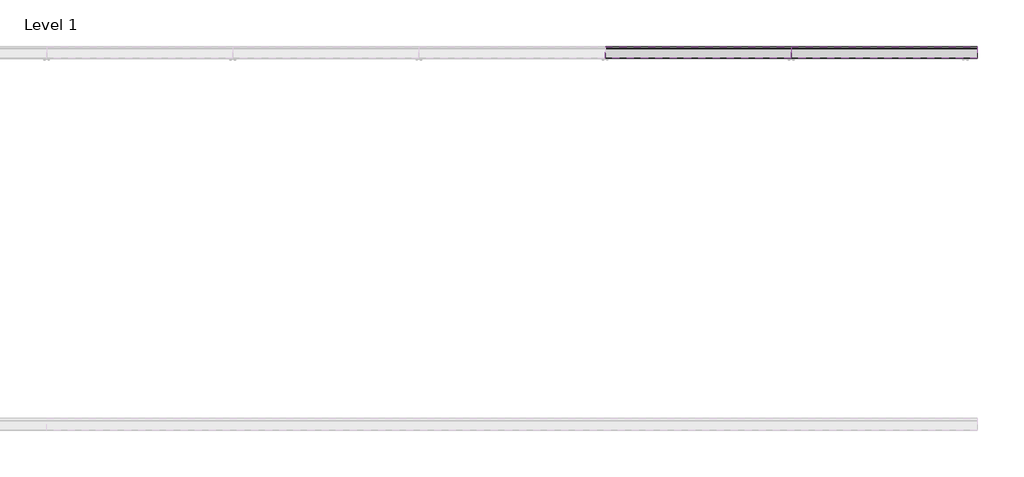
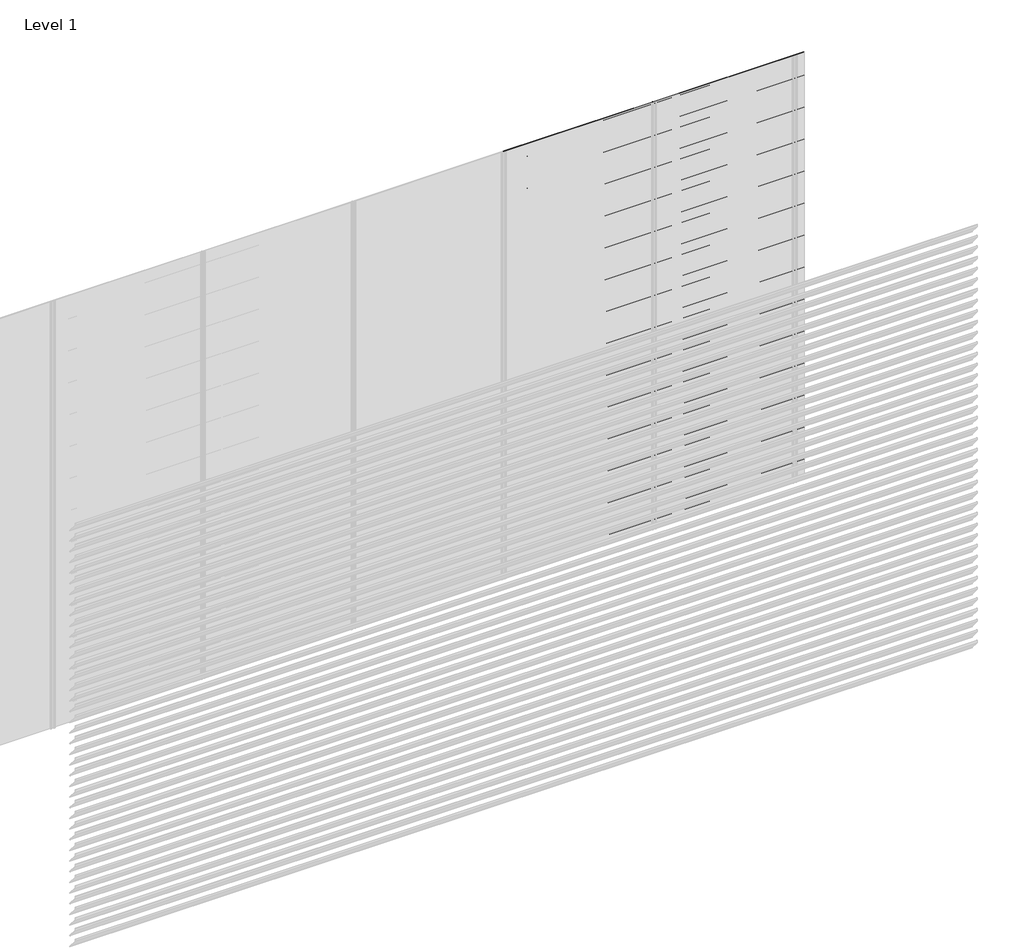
# One storey, part 35 of 35: 90 proxies.
"""IFC4 building model written with IfcOpenShell, lengths in millimetres."""

from ifc_helpers import new_model, si_unit, frame, origin, place, context, project, spatial, polyline, outline, extrude, element, save

model = new_model("IFC4")

# Units and contexts
model_context = context("Model", 3, world=origin())
ifc_project = project(units=[si_unit("LENGTHUNIT", "METRE", prefix="MILLI")], contexts=[model_context])

# Site, building, storey
site = spatial("IfcSite", under=ifc_project)
building = spatial("IfcBuilding", under=site)
storey = spatial("IfcBuildingStorey", under=building, Name="Level 1", Elevation=0.0)

# Proxies
placement = place(None, origin())
element("IfcBuildingElementProxy", 1, Name="Wall Sweeps", at=placement, inside=storey, context=model_context, shape_type="SweptSolid", body=[
    extrude(outline(polyline([(3.5, 750.0), (3.5, 735.5463701), (65.5, 663.9330051), (65.5, 660.4), (64.0, 660.4), (64.0, 663.3738975), (2.0, 734.9872626), (2.0, 750.0), (3.5, 750.0)])), frame((3000.0, 0.0, 0.0), z_axis=(1.0, 0.0, 0.0), x_axis=(0.0, 1.0, 0.0)), (0.0, 0.0, 1.0), 1000.0),
])
element("IfcBuildingElementProxy", 2, Name="Wall Sweeps", at=placement, inside=storey, context=model_context, shape_type="SweptSolid", body=[
    extrude(outline(polyline([(3.5, 675.0), (3.5, 660.5463701), (65.5, 588.9330051), (65.5, 585.4), (64.0, 585.4), (64.0, 588.3738975), (2.0, 659.9872626), (2.0, 675.0), (3.5, 675.0)])), frame((3000.0, 0.0, 0.0), z_axis=(1.0, 0.0, 0.0), x_axis=(0.0, 1.0, 0.0)), (0.0, 0.0, 1.0), 1000.0),
])
element("IfcBuildingElementProxy", 3, Name="Wall Sweeps", at=placement, inside=storey, context=model_context, shape_type="SweptSolid", body=[
    extrude(outline(polyline([(3.5, 600.0), (3.5, 585.5463701), (65.5, 513.9330051), (65.5, 510.4), (64.0, 510.4), (64.0, 513.3738975), (2.0, 584.9872626), (2.0, 600.0), (3.5, 600.0)])), frame((3000.0, 0.0, 0.0), z_axis=(1.0, 0.0, 0.0), x_axis=(0.0, 1.0, 0.0)), (0.0, 0.0, 1.0), 1000.0),
])
element("IfcBuildingElementProxy", 4, Name="Wall Sweeps", at=placement, inside=storey, context=model_context, shape_type="SweptSolid", body=[
    extrude(outline(polyline([(3.5, 525.0), (3.5, 510.5463701), (65.5, 438.9330051), (65.5, 435.4), (64.0, 435.4), (64.0, 438.3738975), (2.0, 509.9872626), (2.0, 525.0), (3.5, 525.0)])), frame((3000.0, 0.0, 0.0), z_axis=(1.0, 0.0, 0.0), x_axis=(0.0, 1.0, 0.0)), (0.0, 0.0, 1.0), 1000.0),
])
element("IfcBuildingElementProxy", 5, Name="Wall Sweeps", at=placement, inside=storey, context=model_context, shape_type="SweptSolid", body=[
    extrude(outline(polyline([(3.5, 450.0), (3.5, 435.5463701), (65.5, 363.9330051), (65.5, 360.4), (64.0, 360.4), (64.0, 363.3738975), (2.0, 434.9872626), (2.0, 450.0), (3.5, 450.0)])), frame((3000.0, 0.0, 0.0), z_axis=(1.0, 0.0, 0.0), x_axis=(0.0, 1.0, 0.0)), (0.0, 0.0, 1.0), 1000.0),
])
element("IfcBuildingElementProxy", 6, Name="Wall Sweeps", at=placement, inside=storey, context=model_context, shape_type="SweptSolid", body=[
    extrude(outline(polyline([(3.5, 375.0), (3.5, 360.5463701), (65.5, 288.9330051), (65.5, 285.4), (64.0, 285.4), (64.0, 288.3738975), (2.0, 359.9872626), (2.0, 375.0), (3.5, 375.0)])), frame((3000.0, 0.0, 0.0), z_axis=(1.0, 0.0, 0.0), x_axis=(0.0, 1.0, 0.0)), (0.0, 0.0, 1.0), 1000.0),
])
element("IfcBuildingElementProxy", 7, Name="Wall Sweeps", at=placement, inside=storey, context=model_context, shape_type="SweptSolid", body=[
    extrude(outline(polyline([(3.5, 300.0), (3.5, 285.5463701), (65.5, 213.9330051), (65.5, 210.4), (64.0, 210.4), (64.0, 213.3738975), (2.0, 284.9872626), (2.0, 300.0), (3.5, 300.0)])), frame((3000.0, 0.0, 0.0), z_axis=(1.0, 0.0, 0.0), x_axis=(0.0, 1.0, 0.0)), (0.0, 0.0, 1.0), 1000.0),
])
element("IfcBuildingElementProxy", 8, Name="Wall Sweeps", at=placement, inside=storey, context=model_context, shape_type="SweptSolid", body=[
    extrude(outline(polyline([(3.5, 225.0), (3.5, 210.5463701), (65.5, 138.9330051), (65.5, 135.4), (64.0, 135.4), (64.0, 138.3738975), (2.0, 209.9872626), (2.0, 225.0), (3.5, 225.0)])), frame((3000.0, 0.0, 0.0), z_axis=(1.0, 0.0, 0.0), x_axis=(0.0, 1.0, 0.0)), (0.0, 0.0, 1.0), 1000.0),
])
element("IfcBuildingElementProxy", 9, Name="Wall Sweeps", at=placement, inside=storey, context=model_context, shape_type="SweptSolid", body=[
    extrude(outline(polyline([(3.5, 150.0), (3.5, 135.5463701), (65.5, 63.9330051), (65.5, 60.4), (64.0, 60.4), (64.0, 63.3738975), (2.0, 134.9872626), (2.0, 150.0), (3.5, 150.0)])), frame((3000.0, 0.0, 0.0), z_axis=(1.0, 0.0, 0.0), x_axis=(0.0, 1.0, 0.0)), (0.0, 0.0, 1.0), 1000.0),
])
element("IfcBuildingElementProxy", 10, Name="Wall Sweeps", at=placement, inside=storey, context=model_context, shape_type="SweptSolid", body=[
    extrude(outline(polyline([(3.5, 75.0), (3.5, 60.5463701), (65.5, -11.0669949), (65.5, -14.6), (64.0, -14.6), (64.0, -11.6261025), (2.0, 59.9872626), (2.0, 75.0), (3.5, 75.0)])), frame((3000.0, 0.0, 0.0), z_axis=(1.0, 0.0, 0.0), x_axis=(0.0, 1.0, 0.0)), (0.0, 0.0, 1.0), 1000.0),
])
element("IfcBuildingElementProxy", 11, Name="Wall Sweeps", at=placement, inside=storey, context=model_context, shape_type="SweptSolid", body=[
    extrude(outline(polyline([(3.5, 3000.0), (3.5, 2985.5463701), (65.5, 2913.9330051), (65.5, 2910.4), (64.0, 2910.4), (64.0, 2913.3738975), (2.0, 2984.9872626), (2.0, 3000.0), (3.5, 3000.0)])), frame((4000.0, 0.0, 0.0), z_axis=(1.0, 0.0, 0.0), x_axis=(0.0, 1.0, 0.0)), (0.0, 0.0, 1.0), 1000.0),
])
element("IfcBuildingElementProxy", 12, Name="Wall Sweeps", at=placement, inside=storey, context=model_context, shape_type="SweptSolid", body=[
    extrude(outline(polyline([(3.5, 2925.0), (3.5, 2910.5463701), (65.5, 2838.9330051), (65.5, 2835.4), (64.0, 2835.4), (64.0, 2838.3738975), (2.0, 2909.9872626), (2.0, 2925.0), (3.5, 2925.0)])), frame((4000.0, 0.0, 0.0), z_axis=(1.0, 0.0, 0.0), x_axis=(0.0, 1.0, 0.0)), (0.0, 0.0, 1.0), 1000.0),
])
element("IfcBuildingElementProxy", 13, Name="Wall Sweeps", at=placement, inside=storey, context=model_context, shape_type="SweptSolid", body=[
    extrude(outline(polyline([(3.5, 2850.0), (3.5, 2835.5463701), (65.5, 2763.9330051), (65.5, 2760.4), (64.0, 2760.4), (64.0, 2763.3738975), (2.0, 2834.9872626), (2.0, 2850.0), (3.5, 2850.0)])), frame((4000.0, 0.0, 0.0), z_axis=(1.0, 0.0, 0.0), x_axis=(0.0, 1.0, 0.0)), (0.0, 0.0, 1.0), 1000.0),
])
element("IfcBuildingElementProxy", 14, Name="Wall Sweeps", at=placement, inside=storey, context=model_context, shape_type="SweptSolid", body=[
    extrude(outline(polyline([(3.5, 2775.0), (3.5, 2760.5463701), (65.5, 2688.9330051), (65.5, 2685.4), (64.0, 2685.4), (64.0, 2688.3738975), (2.0, 2759.9872626), (2.0, 2775.0), (3.5, 2775.0)])), frame((4000.0, 0.0, 0.0), z_axis=(1.0, 0.0, 0.0), x_axis=(0.0, 1.0, 0.0)), (0.0, 0.0, 1.0), 1000.0),
])
element("IfcBuildingElementProxy", 15, Name="Wall Sweeps", at=placement, inside=storey, context=model_context, shape_type="SweptSolid", body=[
    extrude(outline(polyline([(3.5, 2700.0), (3.5, 2685.5463701), (65.5, 2613.9330051), (65.5, 2610.4), (64.0, 2610.4), (64.0, 2613.3738975), (2.0, 2684.9872626), (2.0, 2700.0), (3.5, 2700.0)])), frame((4000.0, 0.0, 0.0), z_axis=(1.0, 0.0, 0.0), x_axis=(0.0, 1.0, 0.0)), (0.0, 0.0, 1.0), 1000.0),
])
element("IfcBuildingElementProxy", 16, Name="Wall Sweeps", at=placement, inside=storey, context=model_context, shape_type="SweptSolid", body=[
    extrude(outline(polyline([(3.5, 2625.0), (3.5, 2610.5463701), (65.5, 2538.9330051), (65.5, 2535.4), (64.0, 2535.4), (64.0, 2538.3738975), (2.0, 2609.9872626), (2.0, 2625.0), (3.5, 2625.0)])), frame((4000.0, 0.0, 0.0), z_axis=(1.0, 0.0, 0.0), x_axis=(0.0, 1.0, 0.0)), (0.0, 0.0, 1.0), 1000.0),
])
element("IfcBuildingElementProxy", 17, Name="Wall Sweeps", at=placement, inside=storey, context=model_context, shape_type="SweptSolid", body=[
    extrude(outline(polyline([(3.5, 2550.0), (3.5, 2535.5463701), (65.5, 2463.9330051), (65.5, 2460.4), (64.0, 2460.4), (64.0, 2463.3738975), (2.0, 2534.9872626), (2.0, 2550.0), (3.5, 2550.0)])), frame((4000.0, 0.0, 0.0), z_axis=(1.0, 0.0, 0.0), x_axis=(0.0, 1.0, 0.0)), (0.0, 0.0, 1.0), 1000.0),
])
element("IfcBuildingElementProxy", 18, Name="Wall Sweeps", at=placement, inside=storey, context=model_context, shape_type="SweptSolid", body=[
    extrude(outline(polyline([(3.5, 2475.0), (3.5, 2460.5463701), (65.5, 2388.9330051), (65.5, 2385.4), (64.0, 2385.4), (64.0, 2388.3738975), (2.0, 2459.9872626), (2.0, 2475.0), (3.5, 2475.0)])), frame((4000.0, 0.0, 0.0), z_axis=(1.0, 0.0, 0.0), x_axis=(0.0, 1.0, 0.0)), (0.0, 0.0, 1.0), 1000.0),
])
element("IfcBuildingElementProxy", 19, Name="Wall Sweeps", at=placement, inside=storey, context=model_context, shape_type="SweptSolid", body=[
    extrude(outline(polyline([(3.5, 2400.0), (3.5, 2385.5463701), (65.5, 2313.9330051), (65.5, 2310.4), (64.0, 2310.4), (64.0, 2313.3738975), (2.0, 2384.9872626), (2.0, 2400.0), (3.5, 2400.0)])), frame((4000.0, 0.0, 0.0), z_axis=(1.0, 0.0, 0.0), x_axis=(0.0, 1.0, 0.0)), (0.0, 0.0, 1.0), 1000.0),
])
element("IfcBuildingElementProxy", 20, Name="Wall Sweeps", at=placement, inside=storey, context=model_context, shape_type="SweptSolid", body=[
    extrude(outline(polyline([(3.5, 2325.0), (3.5, 2310.5463701), (65.5, 2238.9330051), (65.5, 2235.4), (64.0, 2235.4), (64.0, 2238.3738975), (2.0, 2309.9872626), (2.0, 2325.0), (3.5, 2325.0)])), frame((4000.0, 0.0, 0.0), z_axis=(1.0, 0.0, 0.0), x_axis=(0.0, 1.0, 0.0)), (0.0, 0.0, 1.0), 1000.0),
])
element("IfcBuildingElementProxy", 21, Name="Wall Sweeps", at=placement, inside=storey, context=model_context, shape_type="SweptSolid", body=[
    extrude(outline(polyline([(3.5, 2250.0), (3.5, 2235.5463701), (65.5, 2163.9330051), (65.5, 2160.4), (64.0, 2160.4), (64.0, 2163.3738975), (2.0, 2234.9872626), (2.0, 2250.0), (3.5, 2250.0)])), frame((4000.0, 0.0, 0.0), z_axis=(1.0, 0.0, 0.0), x_axis=(0.0, 1.0, 0.0)), (0.0, 0.0, 1.0), 1000.0),
])
element("IfcBuildingElementProxy", 22, Name="Wall Sweeps", at=placement, inside=storey, context=model_context, shape_type="SweptSolid", body=[
    extrude(outline(polyline([(3.5, 2175.0), (3.5, 2160.5463701), (65.5, 2088.9330051), (65.5, 2085.4), (64.0, 2085.4), (64.0, 2088.3738975), (2.0, 2159.9872626), (2.0, 2175.0), (3.5, 2175.0)])), frame((4000.0, 0.0, 0.0), z_axis=(1.0, 0.0, 0.0), x_axis=(0.0, 1.0, 0.0)), (0.0, 0.0, 1.0), 1000.0),
])
element("IfcBuildingElementProxy", 23, Name="Wall Sweeps", at=placement, inside=storey, context=model_context, shape_type="SweptSolid", body=[
    extrude(outline(polyline([(3.5, 2100.0), (3.5, 2085.5463701), (65.5, 2013.9330051), (65.5, 2010.4), (64.0, 2010.4), (64.0, 2013.3738975), (2.0, 2084.9872626), (2.0, 2100.0), (3.5, 2100.0)])), frame((4000.0, 0.0, 0.0), z_axis=(1.0, 0.0, 0.0), x_axis=(0.0, 1.0, 0.0)), (0.0, 0.0, 1.0), 1000.0),
])
element("IfcBuildingElementProxy", 24, Name="Wall Sweeps", at=placement, inside=storey, context=model_context, shape_type="SweptSolid", body=[
    extrude(outline(polyline([(3.5, 2025.0), (3.5, 2010.5463701), (65.5, 1938.9330051), (65.5, 1935.4), (64.0, 1935.4), (64.0, 1938.3738975), (2.0, 2009.9872626), (2.0, 2025.0), (3.5, 2025.0)])), frame((4000.0, 0.0, 0.0), z_axis=(1.0, 0.0, 0.0), x_axis=(0.0, 1.0, 0.0)), (0.0, 0.0, 1.0), 1000.0),
])
element("IfcBuildingElementProxy", 25, Name="Wall Sweeps", at=placement, inside=storey, context=model_context, shape_type="SweptSolid", body=[
    extrude(outline(polyline([(3.5, 1950.0), (3.5, 1935.5463701), (65.5, 1863.9330051), (65.5, 1860.4), (64.0, 1860.4), (64.0, 1863.3738975), (2.0, 1934.9872626), (2.0, 1950.0), (3.5, 1950.0)])), frame((4000.0, 0.0, 0.0), z_axis=(1.0, 0.0, 0.0), x_axis=(0.0, 1.0, 0.0)), (0.0, 0.0, 1.0), 1000.0),
])
element("IfcBuildingElementProxy", 26, Name="Wall Sweeps", at=placement, inside=storey, context=model_context, shape_type="SweptSolid", body=[
    extrude(outline(polyline([(3.5, 1875.0), (3.5, 1860.5463701), (65.5, 1788.9330051), (65.5, 1785.4), (64.0, 1785.4), (64.0, 1788.3738975), (2.0, 1859.9872626), (2.0, 1875.0), (3.5, 1875.0)])), frame((4000.0, 0.0, 0.0), z_axis=(1.0, 0.0, 0.0), x_axis=(0.0, 1.0, 0.0)), (0.0, 0.0, 1.0), 1000.0),
])
element("IfcBuildingElementProxy", 27, Name="Wall Sweeps", at=placement, inside=storey, context=model_context, shape_type="SweptSolid", body=[
    extrude(outline(polyline([(3.5, 1800.0), (3.5, 1785.5463701), (65.5, 1713.9330051), (65.5, 1710.4), (64.0, 1710.4), (64.0, 1713.3738975), (2.0, 1784.9872626), (2.0, 1800.0), (3.5, 1800.0)])), frame((4000.0, 0.0, 0.0), z_axis=(1.0, 0.0, 0.0), x_axis=(0.0, 1.0, 0.0)), (0.0, 0.0, 1.0), 1000.0),
])
element("IfcBuildingElementProxy", 28, Name="Wall Sweeps", at=placement, inside=storey, context=model_context, shape_type="SweptSolid", body=[
    extrude(outline(polyline([(3.5, 1725.0), (3.5, 1710.5463701), (65.5, 1638.9330051), (65.5, 1635.4), (64.0, 1635.4), (64.0, 1638.3738975), (2.0, 1709.9872626), (2.0, 1725.0), (3.5, 1725.0)])), frame((4000.0, 0.0, 0.0), z_axis=(1.0, 0.0, 0.0), x_axis=(0.0, 1.0, 0.0)), (0.0, 0.0, 1.0), 1000.0),
])
element("IfcBuildingElementProxy", 29, Name="Wall Sweeps", at=placement, inside=storey, context=model_context, shape_type="SweptSolid", body=[
    extrude(outline(polyline([(3.5, 1650.0), (3.5, 1635.5463701), (65.5, 1563.9330051), (65.5, 1560.4), (64.0, 1560.4), (64.0, 1563.3738975), (2.0, 1634.9872626), (2.0, 1650.0), (3.5, 1650.0)])), frame((4000.0, 0.0, 0.0), z_axis=(1.0, 0.0, 0.0), x_axis=(0.0, 1.0, 0.0)), (0.0, 0.0, 1.0), 1000.0),
])
element("IfcBuildingElementProxy", 30, Name="Wall Sweeps", at=placement, inside=storey, context=model_context, shape_type="SweptSolid", body=[
    extrude(outline(polyline([(3.5, 1575.0), (3.5, 1560.5463701), (65.5, 1488.9330051), (65.5, 1485.4), (64.0, 1485.4), (64.0, 1488.3738975), (2.0, 1559.9872626), (2.0, 1575.0), (3.5, 1575.0)])), frame((4000.0, 0.0, 0.0), z_axis=(1.0, 0.0, 0.0), x_axis=(0.0, 1.0, 0.0)), (0.0, 0.0, 1.0), 1000.0),
])
element("IfcBuildingElementProxy", 31, Name="Wall Sweeps", at=placement, inside=storey, context=model_context, shape_type="SweptSolid", body=[
    extrude(outline(polyline([(3.5, 1500.0), (3.5, 1485.5463701), (65.5, 1413.9330051), (65.5, 1410.4), (64.0, 1410.4), (64.0, 1413.3738975), (2.0, 1484.9872626), (2.0, 1500.0), (3.5, 1500.0)])), frame((4000.0, 0.0, 0.0), z_axis=(1.0, 0.0, 0.0), x_axis=(0.0, 1.0, 0.0)), (0.0, 0.0, 1.0), 1000.0),
])
element("IfcBuildingElementProxy", 32, Name="Wall Sweeps", at=placement, inside=storey, context=model_context, shape_type="SweptSolid", body=[
    extrude(outline(polyline([(3.5, 1425.0), (3.5, 1410.5463701), (65.5, 1338.9330051), (65.5, 1335.4), (64.0, 1335.4), (64.0, 1338.3738975), (2.0, 1409.9872626), (2.0, 1425.0), (3.5, 1425.0)])), frame((4000.0, 0.0, 0.0), z_axis=(1.0, 0.0, 0.0), x_axis=(0.0, 1.0, 0.0)), (0.0, 0.0, 1.0), 1000.0),
])
element("IfcBuildingElementProxy", 33, Name="Wall Sweeps", at=placement, inside=storey, context=model_context, shape_type="SweptSolid", body=[
    extrude(outline(polyline([(3.5, 1350.0), (3.5, 1335.5463701), (65.5, 1263.9330051), (65.5, 1260.4), (64.0, 1260.4), (64.0, 1263.3738975), (2.0, 1334.9872626), (2.0, 1350.0), (3.5, 1350.0)])), frame((4000.0, 0.0, 0.0), z_axis=(1.0, 0.0, 0.0), x_axis=(0.0, 1.0, 0.0)), (0.0, 0.0, 1.0), 1000.0),
])
element("IfcBuildingElementProxy", 34, Name="Wall Sweeps", at=placement, inside=storey, context=model_context, shape_type="SweptSolid", body=[
    extrude(outline(polyline([(3.5, 1275.0), (3.5, 1260.5463701), (65.5, 1188.9330051), (65.5, 1185.4), (64.0, 1185.4), (64.0, 1188.3738975), (2.0, 1259.9872626), (2.0, 1275.0), (3.5, 1275.0)])), frame((4000.0, 0.0, 0.0), z_axis=(1.0, 0.0, 0.0), x_axis=(0.0, 1.0, 0.0)), (0.0, 0.0, 1.0), 1000.0),
])
element("IfcBuildingElementProxy", 35, Name="Wall Sweeps", at=placement, inside=storey, context=model_context, shape_type="SweptSolid", body=[
    extrude(outline(polyline([(3.5, 1200.0), (3.5, 1185.5463701), (65.5, 1113.9330051), (65.5, 1110.4), (64.0, 1110.4), (64.0, 1113.3738975), (2.0, 1184.9872626), (2.0, 1200.0), (3.5, 1200.0)])), frame((4000.0, 0.0, 0.0), z_axis=(1.0, 0.0, 0.0), x_axis=(0.0, 1.0, 0.0)), (0.0, 0.0, 1.0), 1000.0),
])
element("IfcBuildingElementProxy", 36, Name="Wall Sweeps", at=placement, inside=storey, context=model_context, shape_type="SweptSolid", body=[
    extrude(outline(polyline([(3.5, 1125.0), (3.5, 1110.5463701), (65.5, 1038.9330051), (65.5, 1035.4), (64.0, 1035.4), (64.0, 1038.3738975), (2.0, 1109.9872626), (2.0, 1125.0), (3.5, 1125.0)])), frame((4000.0, 0.0, 0.0), z_axis=(1.0, 0.0, 0.0), x_axis=(0.0, 1.0, 0.0)), (0.0, 0.0, 1.0), 1000.0),
])
element("IfcBuildingElementProxy", 37, Name="Wall Sweeps", at=placement, inside=storey, context=model_context, shape_type="SweptSolid", body=[
    extrude(outline(polyline([(3.5, 1050.0), (3.5, 1035.5463701), (65.5, 963.9330051), (65.5, 960.4), (64.0, 960.4), (64.0, 963.3738975), (2.0, 1034.9872626), (2.0, 1050.0), (3.5, 1050.0)])), frame((4000.0, 0.0, 0.0), z_axis=(1.0, 0.0, 0.0), x_axis=(0.0, 1.0, 0.0)), (0.0, 0.0, 1.0), 1000.0),
])
element("IfcBuildingElementProxy", 38, Name="Wall Sweeps", at=placement, inside=storey, context=model_context, shape_type="SweptSolid", body=[
    extrude(outline(polyline([(3.5, 975.0), (3.5, 960.5463701), (65.5, 888.9330051), (65.5, 885.4), (64.0, 885.4), (64.0, 888.3738975), (2.0, 959.9872626), (2.0, 975.0), (3.5, 975.0)])), frame((4000.0, 0.0, 0.0), z_axis=(1.0, 0.0, 0.0), x_axis=(0.0, 1.0, 0.0)), (0.0, 0.0, 1.0), 1000.0),
])
element("IfcBuildingElementProxy", 39, Name="Wall Sweeps", at=placement, inside=storey, context=model_context, shape_type="SweptSolid", body=[
    extrude(outline(polyline([(3.5, 900.0), (3.5, 885.5463701), (65.5, 813.9330051), (65.5, 810.4), (64.0, 810.4), (64.0, 813.3738975), (2.0, 884.9872626), (2.0, 900.0), (3.5, 900.0)])), frame((4000.0, 0.0, 0.0), z_axis=(1.0, 0.0, 0.0), x_axis=(0.0, 1.0, 0.0)), (0.0, 0.0, 1.0), 1000.0),
])
element("IfcBuildingElementProxy", 40, Name="Wall Sweeps", at=placement, inside=storey, context=model_context, shape_type="SweptSolid", body=[
    extrude(outline(polyline([(3.5, 825.0), (3.5, 810.5463701), (65.5, 738.9330051), (65.5, 735.4), (64.0, 735.4), (64.0, 738.3738975), (2.0, 809.9872626), (2.0, 825.0), (3.5, 825.0)])), frame((4000.0, 0.0, 0.0), z_axis=(1.0, 0.0, 0.0), x_axis=(0.0, 1.0, 0.0)), (0.0, 0.0, 1.0), 1000.0),
])
element("IfcBuildingElementProxy", 41, Name="Wall Sweeps", at=placement, inside=storey, context=model_context, shape_type="SweptSolid", body=[
    extrude(outline(polyline([(3.5, 750.0), (3.5, 735.5463701), (65.5, 663.9330051), (65.5, 660.4), (64.0, 660.4), (64.0, 663.3738975), (2.0, 734.9872626), (2.0, 750.0), (3.5, 750.0)])), frame((4000.0, 0.0, 0.0), z_axis=(1.0, 0.0, 0.0), x_axis=(0.0, 1.0, 0.0)), (0.0, 0.0, 1.0), 1000.0),
])
element("IfcBuildingElementProxy", 42, Name="Wall Sweeps", at=placement, inside=storey, context=model_context, shape_type="SweptSolid", body=[
    extrude(outline(polyline([(3.5, 675.0), (3.5, 660.5463701), (65.5, 588.9330051), (65.5, 585.4), (64.0, 585.4), (64.0, 588.3738975), (2.0, 659.9872626), (2.0, 675.0), (3.5, 675.0)])), frame((4000.0, 0.0, 0.0), z_axis=(1.0, 0.0, 0.0), x_axis=(0.0, 1.0, 0.0)), (0.0, 0.0, 1.0), 1000.0),
])
element("IfcBuildingElementProxy", 43, Name="Wall Sweeps", at=placement, inside=storey, context=model_context, shape_type="SweptSolid", body=[
    extrude(outline(polyline([(3.5, 600.0), (3.5, 585.5463701), (65.5, 513.9330051), (65.5, 510.4), (64.0, 510.4), (64.0, 513.3738975), (2.0, 584.9872626), (2.0, 600.0), (3.5, 600.0)])), frame((4000.0, 0.0, 0.0), z_axis=(1.0, 0.0, 0.0), x_axis=(0.0, 1.0, 0.0)), (0.0, 0.0, 1.0), 1000.0),
])
element("IfcBuildingElementProxy", 44, Name="Wall Sweeps", at=placement, inside=storey, context=model_context, shape_type="SweptSolid", body=[
    extrude(outline(polyline([(3.5, 525.0), (3.5, 510.5463701), (65.5, 438.9330051), (65.5, 435.4), (64.0, 435.4), (64.0, 438.3738975), (2.0, 509.9872626), (2.0, 525.0), (3.5, 525.0)])), frame((4000.0, 0.0, 0.0), z_axis=(1.0, 0.0, 0.0), x_axis=(0.0, 1.0, 0.0)), (0.0, 0.0, 1.0), 1000.0),
])
element("IfcBuildingElementProxy", 45, Name="Wall Sweeps", at=placement, inside=storey, context=model_context, shape_type="SweptSolid", body=[
    extrude(outline(polyline([(3.5, 450.0), (3.5, 435.5463701), (65.5, 363.9330051), (65.5, 360.4), (64.0, 360.4), (64.0, 363.3738975), (2.0, 434.9872626), (2.0, 450.0), (3.5, 450.0)])), frame((4000.0, 0.0, 0.0), z_axis=(1.0, 0.0, 0.0), x_axis=(0.0, 1.0, 0.0)), (0.0, 0.0, 1.0), 1000.0),
])
element("IfcBuildingElementProxy", 46, Name="Wall Sweeps", at=placement, inside=storey, context=model_context, shape_type="SweptSolid", body=[
    extrude(outline(polyline([(3.5, 375.0), (3.5, 360.5463701), (65.5, 288.9330051), (65.5, 285.4), (64.0, 285.4), (64.0, 288.3738975), (2.0, 359.9872626), (2.0, 375.0), (3.5, 375.0)])), frame((4000.0, 0.0, 0.0), z_axis=(1.0, 0.0, 0.0), x_axis=(0.0, 1.0, 0.0)), (0.0, 0.0, 1.0), 1000.0),
])
element("IfcBuildingElementProxy", 47, Name="Wall Sweeps", at=placement, inside=storey, context=model_context, shape_type="SweptSolid", body=[
    extrude(outline(polyline([(3.5, 300.0), (3.5, 285.5463701), (65.5, 213.9330051), (65.5, 210.4), (64.0, 210.4), (64.0, 213.3738975), (2.0, 284.9872626), (2.0, 300.0), (3.5, 300.0)])), frame((4000.0, 0.0, 0.0), z_axis=(1.0, 0.0, 0.0), x_axis=(0.0, 1.0, 0.0)), (0.0, 0.0, 1.0), 1000.0),
])
element("IfcBuildingElementProxy", 48, Name="Wall Sweeps", at=placement, inside=storey, context=model_context, shape_type="SweptSolid", body=[
    extrude(outline(polyline([(3.5, 225.0), (3.5, 210.5463701), (65.5, 138.9330051), (65.5, 135.4), (64.0, 135.4), (64.0, 138.3738975), (2.0, 209.9872626), (2.0, 225.0), (3.5, 225.0)])), frame((4000.0, 0.0, 0.0), z_axis=(1.0, 0.0, 0.0), x_axis=(0.0, 1.0, 0.0)), (0.0, 0.0, 1.0), 1000.0),
])
element("IfcBuildingElementProxy", 49, Name="Wall Sweeps", at=placement, inside=storey, context=model_context, shape_type="SweptSolid", body=[
    extrude(outline(polyline([(3.5, 150.0), (3.5, 135.5463701), (65.5, 63.9330051), (65.5, 60.4), (64.0, 60.4), (64.0, 63.3738975), (2.0, 134.9872626), (2.0, 150.0), (3.5, 150.0)])), frame((4000.0, 0.0, 0.0), z_axis=(1.0, 0.0, 0.0), x_axis=(0.0, 1.0, 0.0)), (0.0, 0.0, 1.0), 1000.0),
])
element("IfcBuildingElementProxy", 50, Name="Wall Sweeps", at=placement, inside=storey, context=model_context, shape_type="SweptSolid", body=[
    extrude(outline(polyline([(3.5, 75.0), (3.5, 60.5463701), (65.5, -11.0669949), (65.5, -14.6), (64.0, -14.6), (64.0, -11.6261025), (2.0, 59.9872626), (2.0, 75.0), (3.5, 75.0)])), frame((4000.0, 0.0, 0.0), z_axis=(1.0, 0.0, 0.0), x_axis=(0.0, 1.0, 0.0)), (0.0, 0.0, 1.0), 1000.0),
])
element("IfcBuildingElementProxy", 51, Name="Wall Sweeps", at=placement, inside=storey, context=model_context, shape_type="SweptSolid", body=[
    extrude(outline(polyline([(3.5, 3000.0), (3.5, 2985.5463701), (65.5, 2913.9330051), (65.5, 2910.4), (64.0, 2910.4), (64.0, 2913.3738975), (2.0, 2984.9872626), (2.0, 3000.0), (3.5, 3000.0)])), frame((5000.0, 0.0, 0.0), z_axis=(1.0, 0.0, 0.0), x_axis=(0.0, 1.0, 0.0)), (0.0, 0.0, 1.0), 1000.0),
])
element("IfcBuildingElementProxy", 52, Name="Wall Sweeps", at=placement, inside=storey, context=model_context, shape_type="SweptSolid", body=[
    extrude(outline(polyline([(3.5, 2925.0), (3.5, 2910.5463701), (65.5, 2838.9330051), (65.5, 2835.4), (64.0, 2835.4), (64.0, 2838.3738975), (2.0, 2909.9872626), (2.0, 2925.0), (3.5, 2925.0)])), frame((5000.0, 0.0, 0.0), z_axis=(1.0, 0.0, 0.0), x_axis=(0.0, 1.0, 0.0)), (0.0, 0.0, 1.0), 1000.0),
])
element("IfcBuildingElementProxy", 53, Name="Wall Sweeps", at=placement, inside=storey, context=model_context, shape_type="SweptSolid", body=[
    extrude(outline(polyline([(3.5, 2850.0), (3.5, 2835.5463701), (65.5, 2763.9330051), (65.5, 2760.4), (64.0, 2760.4), (64.0, 2763.3738975), (2.0, 2834.9872626), (2.0, 2850.0), (3.5, 2850.0)])), frame((5000.0, 0.0, 0.0), z_axis=(1.0, 0.0, 0.0), x_axis=(0.0, 1.0, 0.0)), (0.0, 0.0, 1.0), 1000.0),
])
element("IfcBuildingElementProxy", 54, Name="Wall Sweeps", at=placement, inside=storey, context=model_context, shape_type="SweptSolid", body=[
    extrude(outline(polyline([(3.5, 2775.0), (3.5, 2760.5463701), (65.5, 2688.9330051), (65.5, 2685.4), (64.0, 2685.4), (64.0, 2688.3738975), (2.0, 2759.9872626), (2.0, 2775.0), (3.5, 2775.0)])), frame((5000.0, 0.0, 0.0), z_axis=(1.0, 0.0, 0.0), x_axis=(0.0, 1.0, 0.0)), (0.0, 0.0, 1.0), 1000.0),
])
element("IfcBuildingElementProxy", 55, Name="Wall Sweeps", at=placement, inside=storey, context=model_context, shape_type="SweptSolid", body=[
    extrude(outline(polyline([(3.5, 2700.0), (3.5, 2685.5463701), (65.5, 2613.9330051), (65.5, 2610.4), (64.0, 2610.4), (64.0, 2613.3738975), (2.0, 2684.9872626), (2.0, 2700.0), (3.5, 2700.0)])), frame((5000.0, 0.0, 0.0), z_axis=(1.0, 0.0, 0.0), x_axis=(0.0, 1.0, 0.0)), (0.0, 0.0, 1.0), 1000.0),
])
element("IfcBuildingElementProxy", 56, Name="Wall Sweeps", at=placement, inside=storey, context=model_context, shape_type="SweptSolid", body=[
    extrude(outline(polyline([(3.5, 2625.0), (3.5, 2610.5463701), (65.5, 2538.9330051), (65.5, 2535.4), (64.0, 2535.4), (64.0, 2538.3738975), (2.0, 2609.9872626), (2.0, 2625.0), (3.5, 2625.0)])), frame((5000.0, 0.0, 0.0), z_axis=(1.0, 0.0, 0.0), x_axis=(0.0, 1.0, 0.0)), (0.0, 0.0, 1.0), 1000.0),
])
element("IfcBuildingElementProxy", 57, Name="Wall Sweeps", at=placement, inside=storey, context=model_context, shape_type="SweptSolid", body=[
    extrude(outline(polyline([(3.5, 2550.0), (3.5, 2535.5463701), (65.5, 2463.9330051), (65.5, 2460.4), (64.0, 2460.4), (64.0, 2463.3738975), (2.0, 2534.9872626), (2.0, 2550.0), (3.5, 2550.0)])), frame((5000.0, 0.0, 0.0), z_axis=(1.0, 0.0, 0.0), x_axis=(0.0, 1.0, 0.0)), (0.0, 0.0, 1.0), 1000.0),
])
element("IfcBuildingElementProxy", 58, Name="Wall Sweeps", at=placement, inside=storey, context=model_context, shape_type="SweptSolid", body=[
    extrude(outline(polyline([(3.5, 2475.0), (3.5, 2460.5463701), (65.5, 2388.9330051), (65.5, 2385.4), (64.0, 2385.4), (64.0, 2388.3738975), (2.0, 2459.9872626), (2.0, 2475.0), (3.5, 2475.0)])), frame((5000.0, 0.0, 0.0), z_axis=(1.0, 0.0, 0.0), x_axis=(0.0, 1.0, 0.0)), (0.0, 0.0, 1.0), 1000.0),
])
element("IfcBuildingElementProxy", 59, Name="Wall Sweeps", at=placement, inside=storey, context=model_context, shape_type="SweptSolid", body=[
    extrude(outline(polyline([(3.5, 2400.0), (3.5, 2385.5463701), (65.5, 2313.9330051), (65.5, 2310.4), (64.0, 2310.4), (64.0, 2313.3738975), (2.0, 2384.9872626), (2.0, 2400.0), (3.5, 2400.0)])), frame((5000.0, 0.0, 0.0), z_axis=(1.0, 0.0, 0.0), x_axis=(0.0, 1.0, 0.0)), (0.0, 0.0, 1.0), 1000.0),
])
element("IfcBuildingElementProxy", 60, Name="Wall Sweeps", at=placement, inside=storey, context=model_context, shape_type="SweptSolid", body=[
    extrude(outline(polyline([(3.5, 2325.0), (3.5, 2310.5463701), (65.5, 2238.9330051), (65.5, 2235.4), (64.0, 2235.4), (64.0, 2238.3738975), (2.0, 2309.9872626), (2.0, 2325.0), (3.5, 2325.0)])), frame((5000.0, 0.0, 0.0), z_axis=(1.0, 0.0, 0.0), x_axis=(0.0, 1.0, 0.0)), (0.0, 0.0, 1.0), 1000.0),
])
element("IfcBuildingElementProxy", 61, Name="Wall Sweeps", at=placement, inside=storey, context=model_context, shape_type="SweptSolid", body=[
    extrude(outline(polyline([(3.5, 2250.0), (3.5, 2235.5463701), (65.5, 2163.9330051), (65.5, 2160.4), (64.0, 2160.4), (64.0, 2163.3738975), (2.0, 2234.9872626), (2.0, 2250.0), (3.5, 2250.0)])), frame((5000.0, 0.0, 0.0), z_axis=(1.0, 0.0, 0.0), x_axis=(0.0, 1.0, 0.0)), (0.0, 0.0, 1.0), 1000.0),
])
element("IfcBuildingElementProxy", 62, Name="Wall Sweeps", at=placement, inside=storey, context=model_context, shape_type="SweptSolid", body=[
    extrude(outline(polyline([(3.5, 2175.0), (3.5, 2160.5463701), (65.5, 2088.9330051), (65.5, 2085.4), (64.0, 2085.4), (64.0, 2088.3738975), (2.0, 2159.9872626), (2.0, 2175.0), (3.5, 2175.0)])), frame((5000.0, 0.0, 0.0), z_axis=(1.0, 0.0, 0.0), x_axis=(0.0, 1.0, 0.0)), (0.0, 0.0, 1.0), 1000.0),
])
element("IfcBuildingElementProxy", 63, Name="Wall Sweeps", at=placement, inside=storey, context=model_context, shape_type="SweptSolid", body=[
    extrude(outline(polyline([(3.5, 2100.0), (3.5, 2085.5463701), (65.5, 2013.9330051), (65.5, 2010.4), (64.0, 2010.4), (64.0, 2013.3738975), (2.0, 2084.9872626), (2.0, 2100.0), (3.5, 2100.0)])), frame((5000.0, 0.0, 0.0), z_axis=(1.0, 0.0, 0.0), x_axis=(0.0, 1.0, 0.0)), (0.0, 0.0, 1.0), 1000.0),
])
element("IfcBuildingElementProxy", 64, Name="Wall Sweeps", at=placement, inside=storey, context=model_context, shape_type="SweptSolid", body=[
    extrude(outline(polyline([(3.5, 2025.0), (3.5, 2010.5463701), (65.5, 1938.9330051), (65.5, 1935.4), (64.0, 1935.4), (64.0, 1938.3738975), (2.0, 2009.9872626), (2.0, 2025.0), (3.5, 2025.0)])), frame((5000.0, 0.0, 0.0), z_axis=(1.0, 0.0, 0.0), x_axis=(0.0, 1.0, 0.0)), (0.0, 0.0, 1.0), 1000.0),
])
element("IfcBuildingElementProxy", 65, Name="Wall Sweeps", at=placement, inside=storey, context=model_context, shape_type="SweptSolid", body=[
    extrude(outline(polyline([(3.5, 1950.0), (3.5, 1935.5463701), (65.5, 1863.9330051), (65.5, 1860.4), (64.0, 1860.4), (64.0, 1863.3738975), (2.0, 1934.9872626), (2.0, 1950.0), (3.5, 1950.0)])), frame((5000.0, 0.0, 0.0), z_axis=(1.0, 0.0, 0.0), x_axis=(0.0, 1.0, 0.0)), (0.0, 0.0, 1.0), 1000.0),
])
element("IfcBuildingElementProxy", 66, Name="Wall Sweeps", at=placement, inside=storey, context=model_context, shape_type="SweptSolid", body=[
    extrude(outline(polyline([(3.5, 1875.0), (3.5, 1860.5463701), (65.5, 1788.9330051), (65.5, 1785.4), (64.0, 1785.4), (64.0, 1788.3738975), (2.0, 1859.9872626), (2.0, 1875.0), (3.5, 1875.0)])), frame((5000.0, 0.0, 0.0), z_axis=(1.0, 0.0, 0.0), x_axis=(0.0, 1.0, 0.0)), (0.0, 0.0, 1.0), 1000.0),
])
element("IfcBuildingElementProxy", 67, Name="Wall Sweeps", at=placement, inside=storey, context=model_context, shape_type="SweptSolid", body=[
    extrude(outline(polyline([(3.5, 1800.0), (3.5, 1785.5463701), (65.5, 1713.9330051), (65.5, 1710.4), (64.0, 1710.4), (64.0, 1713.3738975), (2.0, 1784.9872626), (2.0, 1800.0), (3.5, 1800.0)])), frame((5000.0, 0.0, 0.0), z_axis=(1.0, 0.0, 0.0), x_axis=(0.0, 1.0, 0.0)), (0.0, 0.0, 1.0), 1000.0),
])
element("IfcBuildingElementProxy", 68, Name="Wall Sweeps", at=placement, inside=storey, context=model_context, shape_type="SweptSolid", body=[
    extrude(outline(polyline([(3.5, 1725.0), (3.5, 1710.5463701), (65.5, 1638.9330051), (65.5, 1635.4), (64.0, 1635.4), (64.0, 1638.3738975), (2.0, 1709.9872626), (2.0, 1725.0), (3.5, 1725.0)])), frame((5000.0, 0.0, 0.0), z_axis=(1.0, 0.0, 0.0), x_axis=(0.0, 1.0, 0.0)), (0.0, 0.0, 1.0), 1000.0),
])
element("IfcBuildingElementProxy", 69, Name="Wall Sweeps", at=placement, inside=storey, context=model_context, shape_type="SweptSolid", body=[
    extrude(outline(polyline([(3.5, 1650.0), (3.5, 1635.5463701), (65.5, 1563.9330051), (65.5, 1560.4), (64.0, 1560.4), (64.0, 1563.3738975), (2.0, 1634.9872626), (2.0, 1650.0), (3.5, 1650.0)])), frame((5000.0, 0.0, 0.0), z_axis=(1.0, 0.0, 0.0), x_axis=(0.0, 1.0, 0.0)), (0.0, 0.0, 1.0), 1000.0),
])
element("IfcBuildingElementProxy", 70, Name="Wall Sweeps", at=placement, inside=storey, context=model_context, shape_type="SweptSolid", body=[
    extrude(outline(polyline([(3.5, 1575.0), (3.5, 1560.5463701), (65.5, 1488.9330051), (65.5, 1485.4), (64.0, 1485.4), (64.0, 1488.3738975), (2.0, 1559.9872626), (2.0, 1575.0), (3.5, 1575.0)])), frame((5000.0, 0.0, 0.0), z_axis=(1.0, 0.0, 0.0), x_axis=(0.0, 1.0, 0.0)), (0.0, 0.0, 1.0), 1000.0),
])
element("IfcBuildingElementProxy", 71, Name="Wall Sweeps", at=placement, inside=storey, context=model_context, shape_type="SweptSolid", body=[
    extrude(outline(polyline([(3.5, 1500.0), (3.5, 1485.5463701), (65.5, 1413.9330051), (65.5, 1410.4), (64.0, 1410.4), (64.0, 1413.3738975), (2.0, 1484.9872626), (2.0, 1500.0), (3.5, 1500.0)])), frame((5000.0, 0.0, 0.0), z_axis=(1.0, 0.0, 0.0), x_axis=(0.0, 1.0, 0.0)), (0.0, 0.0, 1.0), 1000.0),
])
element("IfcBuildingElementProxy", 72, Name="Wall Sweeps", at=placement, inside=storey, context=model_context, shape_type="SweptSolid", body=[
    extrude(outline(polyline([(3.5, 1425.0), (3.5, 1410.5463701), (65.5, 1338.9330051), (65.5, 1335.4), (64.0, 1335.4), (64.0, 1338.3738975), (2.0, 1409.9872626), (2.0, 1425.0), (3.5, 1425.0)])), frame((5000.0, 0.0, 0.0), z_axis=(1.0, 0.0, 0.0), x_axis=(0.0, 1.0, 0.0)), (0.0, 0.0, 1.0), 1000.0),
])
element("IfcBuildingElementProxy", 73, Name="Wall Sweeps", at=placement, inside=storey, context=model_context, shape_type="SweptSolid", body=[
    extrude(outline(polyline([(3.5, 1350.0), (3.5, 1335.5463701), (65.5, 1263.9330051), (65.5, 1260.4), (64.0, 1260.4), (64.0, 1263.3738975), (2.0, 1334.9872626), (2.0, 1350.0), (3.5, 1350.0)])), frame((5000.0, 0.0, 0.0), z_axis=(1.0, 0.0, 0.0), x_axis=(0.0, 1.0, 0.0)), (0.0, 0.0, 1.0), 1000.0),
])
element("IfcBuildingElementProxy", 74, Name="Wall Sweeps", at=placement, inside=storey, context=model_context, shape_type="SweptSolid", body=[
    extrude(outline(polyline([(3.5, 1275.0), (3.5, 1260.5463701), (65.5, 1188.9330051), (65.5, 1185.4), (64.0, 1185.4), (64.0, 1188.3738975), (2.0, 1259.9872626), (2.0, 1275.0), (3.5, 1275.0)])), frame((5000.0, 0.0, 0.0), z_axis=(1.0, 0.0, 0.0), x_axis=(0.0, 1.0, 0.0)), (0.0, 0.0, 1.0), 1000.0),
])
element("IfcBuildingElementProxy", 75, Name="Wall Sweeps", at=placement, inside=storey, context=model_context, shape_type="SweptSolid", body=[
    extrude(outline(polyline([(3.5, 1200.0), (3.5, 1185.5463701), (65.5, 1113.9330051), (65.5, 1110.4), (64.0, 1110.4), (64.0, 1113.3738975), (2.0, 1184.9872626), (2.0, 1200.0), (3.5, 1200.0)])), frame((5000.0, 0.0, 0.0), z_axis=(1.0, 0.0, 0.0), x_axis=(0.0, 1.0, 0.0)), (0.0, 0.0, 1.0), 1000.0),
])
element("IfcBuildingElementProxy", 76, Name="Wall Sweeps", at=placement, inside=storey, context=model_context, shape_type="SweptSolid", body=[
    extrude(outline(polyline([(3.5, 1125.0), (3.5, 1110.5463701), (65.5, 1038.9330051), (65.5, 1035.4), (64.0, 1035.4), (64.0, 1038.3738975), (2.0, 1109.9872626), (2.0, 1125.0), (3.5, 1125.0)])), frame((5000.0, 0.0, 0.0), z_axis=(1.0, 0.0, 0.0), x_axis=(0.0, 1.0, 0.0)), (0.0, 0.0, 1.0), 1000.0),
])
element("IfcBuildingElementProxy", 77, Name="Wall Sweeps", at=placement, inside=storey, context=model_context, shape_type="SweptSolid", body=[
    extrude(outline(polyline([(3.5, 1050.0), (3.5, 1035.5463701), (65.5, 963.9330051), (65.5, 960.4), (64.0, 960.4), (64.0, 963.3738975), (2.0, 1034.9872626), (2.0, 1050.0), (3.5, 1050.0)])), frame((5000.0, 0.0, 0.0), z_axis=(1.0, 0.0, 0.0), x_axis=(0.0, 1.0, 0.0)), (0.0, 0.0, 1.0), 1000.0),
])
element("IfcBuildingElementProxy", 78, Name="Wall Sweeps", at=placement, inside=storey, context=model_context, shape_type="SweptSolid", body=[
    extrude(outline(polyline([(3.5, 975.0), (3.5, 960.5463701), (65.5, 888.9330051), (65.5, 885.4), (64.0, 885.4), (64.0, 888.3738975), (2.0, 959.9872626), (2.0, 975.0), (3.5, 975.0)])), frame((5000.0, 0.0, 0.0), z_axis=(1.0, 0.0, 0.0), x_axis=(0.0, 1.0, 0.0)), (0.0, 0.0, 1.0), 1000.0),
])
element("IfcBuildingElementProxy", 79, Name="Wall Sweeps", at=placement, inside=storey, context=model_context, shape_type="SweptSolid", body=[
    extrude(outline(polyline([(3.5, 900.0), (3.5, 885.5463701), (65.5, 813.9330051), (65.5, 810.4), (64.0, 810.4), (64.0, 813.3738975), (2.0, 884.9872626), (2.0, 900.0), (3.5, 900.0)])), frame((5000.0, 0.0, 0.0), z_axis=(1.0, 0.0, 0.0), x_axis=(0.0, 1.0, 0.0)), (0.0, 0.0, 1.0), 1000.0),
])
element("IfcBuildingElementProxy", 80, Name="Wall Sweeps", at=placement, inside=storey, context=model_context, shape_type="SweptSolid", body=[
    extrude(outline(polyline([(3.5, 825.0), (3.5, 810.5463701), (65.5, 738.9330051), (65.5, 735.4), (64.0, 735.4), (64.0, 738.3738975), (2.0, 809.9872626), (2.0, 825.0), (3.5, 825.0)])), frame((5000.0, 0.0, 0.0), z_axis=(1.0, 0.0, 0.0), x_axis=(0.0, 1.0, 0.0)), (0.0, 0.0, 1.0), 1000.0),
])
element("IfcBuildingElementProxy", 81, Name="Wall Sweeps", at=placement, inside=storey, context=model_context, shape_type="SweptSolid", body=[
    extrude(outline(polyline([(3.5, 750.0), (3.5, 735.5463701), (65.5, 663.9330051), (65.5, 660.4), (64.0, 660.4), (64.0, 663.3738975), (2.0, 734.9872626), (2.0, 750.0), (3.5, 750.0)])), frame((5000.0, 0.0, 0.0), z_axis=(1.0, 0.0, 0.0), x_axis=(0.0, 1.0, 0.0)), (0.0, 0.0, 1.0), 1000.0),
])
element("IfcBuildingElementProxy", 82, Name="Wall Sweeps", at=placement, inside=storey, context=model_context, shape_type="SweptSolid", body=[
    extrude(outline(polyline([(3.5, 675.0), (3.5, 660.5463701), (65.5, 588.9330051), (65.5, 585.4), (64.0, 585.4), (64.0, 588.3738975), (2.0, 659.9872626), (2.0, 675.0), (3.5, 675.0)])), frame((5000.0, 0.0, 0.0), z_axis=(1.0, 0.0, 0.0), x_axis=(0.0, 1.0, 0.0)), (0.0, 0.0, 1.0), 1000.0),
])
element("IfcBuildingElementProxy", 83, Name="Wall Sweeps", at=placement, inside=storey, context=model_context, shape_type="SweptSolid", body=[
    extrude(outline(polyline([(3.5, 600.0), (3.5, 585.5463701), (65.5, 513.9330051), (65.5, 510.4), (64.0, 510.4), (64.0, 513.3738975), (2.0, 584.9872626), (2.0, 600.0), (3.5, 600.0)])), frame((5000.0, 0.0, 0.0), z_axis=(1.0, 0.0, 0.0), x_axis=(0.0, 1.0, 0.0)), (0.0, 0.0, 1.0), 1000.0),
])
element("IfcBuildingElementProxy", 84, Name="Wall Sweeps", at=placement, inside=storey, context=model_context, shape_type="SweptSolid", body=[
    extrude(outline(polyline([(3.5, 525.0), (3.5, 510.5463701), (65.5, 438.9330051), (65.5, 435.4), (64.0, 435.4), (64.0, 438.3738975), (2.0, 509.9872626), (2.0, 525.0), (3.5, 525.0)])), frame((5000.0, 0.0, 0.0), z_axis=(1.0, 0.0, 0.0), x_axis=(0.0, 1.0, 0.0)), (0.0, 0.0, 1.0), 1000.0),
])
element("IfcBuildingElementProxy", 85, Name="Wall Sweeps", at=placement, inside=storey, context=model_context, shape_type="SweptSolid", body=[
    extrude(outline(polyline([(3.5, 450.0), (3.5, 435.5463701), (65.5, 363.9330051), (65.5, 360.4), (64.0, 360.4), (64.0, 363.3738975), (2.0, 434.9872626), (2.0, 450.0), (3.5, 450.0)])), frame((5000.0, 0.0, 0.0), z_axis=(1.0, 0.0, 0.0), x_axis=(0.0, 1.0, 0.0)), (0.0, 0.0, 1.0), 1000.0),
])
element("IfcBuildingElementProxy", 86, Name="Wall Sweeps", at=placement, inside=storey, context=model_context, shape_type="SweptSolid", body=[
    extrude(outline(polyline([(3.5, 375.0), (3.5, 360.5463701), (65.5, 288.9330051), (65.5, 285.4), (64.0, 285.4), (64.0, 288.3738975), (2.0, 359.9872626), (2.0, 375.0), (3.5, 375.0)])), frame((5000.0, 0.0, 0.0), z_axis=(1.0, 0.0, 0.0), x_axis=(0.0, 1.0, 0.0)), (0.0, 0.0, 1.0), 1000.0),
])
element("IfcBuildingElementProxy", 87, Name="Wall Sweeps", at=placement, inside=storey, context=model_context, shape_type="SweptSolid", body=[
    extrude(outline(polyline([(3.5, 300.0), (3.5, 285.5463701), (65.5, 213.9330051), (65.5, 210.4), (64.0, 210.4), (64.0, 213.3738975), (2.0, 284.9872626), (2.0, 300.0), (3.5, 300.0)])), frame((5000.0, 0.0, 0.0), z_axis=(1.0, 0.0, 0.0), x_axis=(0.0, 1.0, 0.0)), (0.0, 0.0, 1.0), 1000.0),
])
element("IfcBuildingElementProxy", 88, Name="Wall Sweeps", at=placement, inside=storey, context=model_context, shape_type="SweptSolid", body=[
    extrude(outline(polyline([(3.5, 225.0), (3.5, 210.5463701), (65.5, 138.9330051), (65.5, 135.4), (64.0, 135.4), (64.0, 138.3738975), (2.0, 209.9872626), (2.0, 225.0), (3.5, 225.0)])), frame((5000.0, 0.0, 0.0), z_axis=(1.0, 0.0, 0.0), x_axis=(0.0, 1.0, 0.0)), (0.0, 0.0, 1.0), 1000.0),
])
element("IfcBuildingElementProxy", 89, Name="Wall Sweeps", at=placement, inside=storey, context=model_context, shape_type="SweptSolid", body=[
    extrude(outline(polyline([(3.5, 150.0), (3.5, 135.5463701), (65.5, 63.9330051), (65.5, 60.4), (64.0, 60.4), (64.0, 63.3738975), (2.0, 134.9872626), (2.0, 150.0), (3.5, 150.0)])), frame((5000.0, 0.0, 0.0), z_axis=(1.0, 0.0, 0.0), x_axis=(0.0, 1.0, 0.0)), (0.0, 0.0, 1.0), 1000.0),
])
element("IfcBuildingElementProxy", 90, Name="Wall Sweeps", at=placement, inside=storey, context=model_context, shape_type="SweptSolid", body=[
    extrude(outline(polyline([(3.5, 75.0), (3.5, 60.5463701), (65.5, -11.0669949), (65.5, -14.6), (64.0, -14.6), (64.0, -11.6261025), (2.0, 59.9872626), (2.0, 75.0), (3.5, 75.0)])), frame((5000.0, 0.0, 0.0), z_axis=(1.0, 0.0, 0.0), x_axis=(0.0, 1.0, 0.0)), (0.0, 0.0, 1.0), 1000.0),
])

save(model, "model.ifc")
